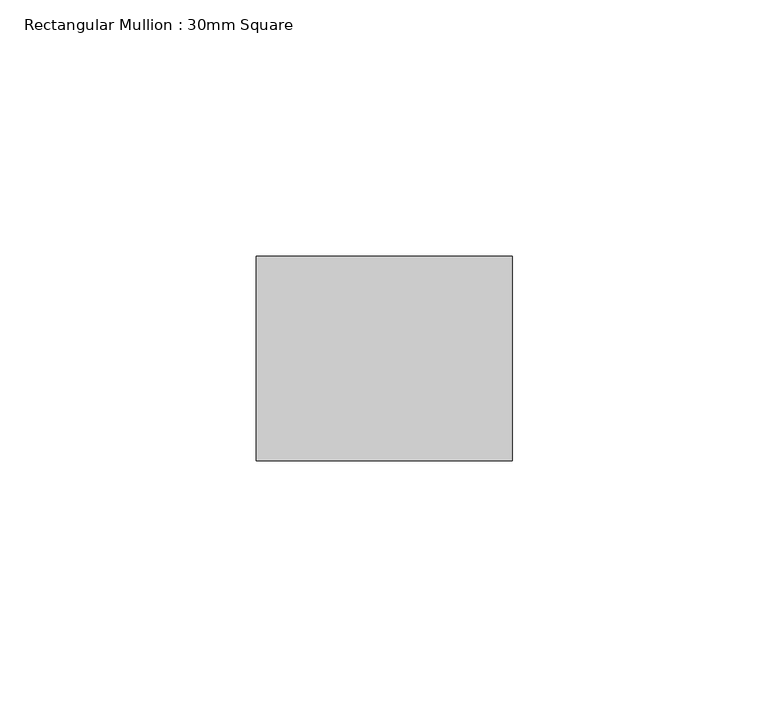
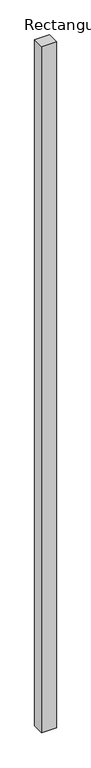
"""IFC4 building model written with IfcOpenShell, lengths in millimetres: member geometry, Rectangular Mullion : 30mm Square."""

from ifc_helpers import new_model, si_unit, frame, origin, place, context, project, spatial, polyline, outline, extrude, source, transform, mapped, element, save


def rectangular_mullion_30mm_square_3ebbf34c(model_context):
    return source(origin(), model_context, "Body", "SweptSolid", [
        extrude(outline(polyline([(25.0, 20.0), (25.0, -20.0), (-25.0, -20.0), (-25.0, 20.0), (25.0, 20.0)])), frame((0.0, 0.0, -2450.0), z_axis=(0.0, 0.0, 1.0), x_axis=(1.0, 0.0, 0.0)), (0.0, 0.0, 1.0), 2450.0),
    ])


if __name__ == "__main__":
    model = new_model("IFC4")
    model_context = context("Model", 3, world=origin())
    ifc_project = project(units=[si_unit("LENGTHUNIT", "METRE", prefix="MILLI")], contexts=[model_context])
    site = spatial("IfcSite", under=ifc_project)
    building = spatial("IfcBuilding", under=site)
    placement = place(None, origin())
    rectangular_mullion_30mm_square_shape = rectangular_mullion_30mm_square_3ebbf34c(model_context)
    element("IfcMember", 1, ObjectType="Rectangular Mullion : 30mm Square", at=placement, inside=building, context=model_context, shape_type="MappedRepresentation", body=[
        mapped(rectangular_mullion_30mm_square_shape, transform((0.0, 0.0, 0.0), x_axis=(1.0, 0.0, 0.0), y_axis=(0.0, 1.0, 0.0), z_axis=(0.0, 0.0, 1.0))),
    ])
    save(model, "model.ifc")
